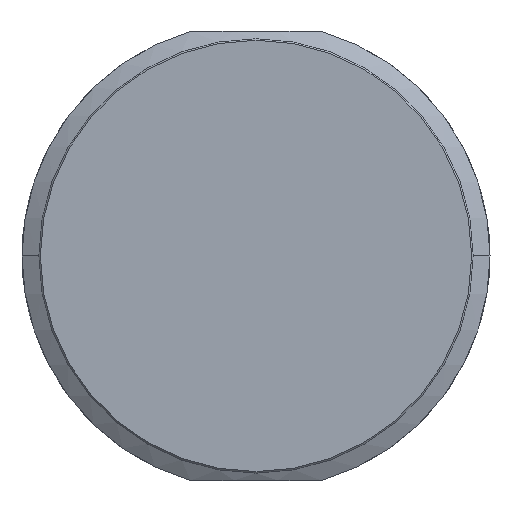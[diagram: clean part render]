
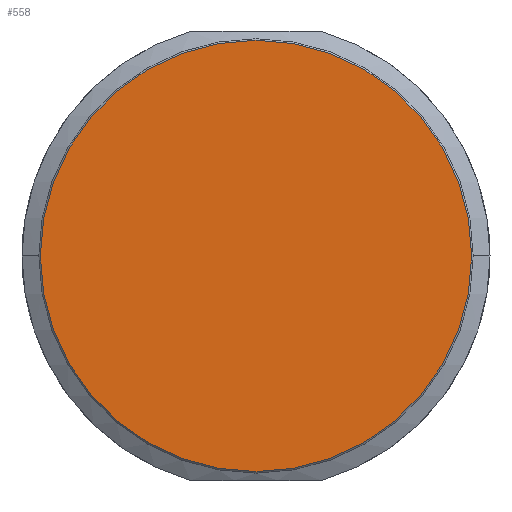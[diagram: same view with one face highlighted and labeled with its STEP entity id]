
A CAD part, top view. The second image highlights one B-rep face of the part: STEP entity #558.
In plain terms, the highlighted planar face has unit normal (0, 0, 1).
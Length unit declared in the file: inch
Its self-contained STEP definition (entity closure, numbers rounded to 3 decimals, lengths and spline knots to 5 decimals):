
#152=CARTESIAN_POINT('',(0.,0.,
0.));
#153=DIRECTION('',(0.,0.,1.));
#154=DIRECTION('',(-1.,0.,0.));
#155=AXIS2_PLACEMENT_3D('',#152,#153,#154);
#157=CARTESIAN_POINT('',(0.,0.,0.));
#158=DIRECTION('',(0.,0.,1.));
#159=DIRECTION('',(1.,0.,0.));
#160=AXIS2_PLACEMENT_3D('',#157,#158,#159);
#304=CARTESIAN_POINT('',(-2.88,0.,0.));
#305=CARTESIAN_POINT('',(2.88,0.,0.));
#306=VERTEX_POINT('',#304);
#307=VERTEX_POINT('',#305);
#548=CARTESIAN_POINT('',(0.,0.,0.));
#549=DIRECTION('',(0.,0.,-1.));
#550=DIRECTION('',(-1.,0.,0.));
#551=AXIS2_PLACEMENT_3D('',#548,#549,#550);
#552=PLANE('',#551);
#554=ORIENTED_EDGE('',*,*,#553,.F.);
#555=ORIENTED_EDGE('',*,*,#538,.F.);
#556=EDGE_LOOP('',(#554,#555));
#557=FACE_OUTER_BOUND('',#556,.F.);
#558=ADVANCED_FACE('',(#557),#552,.F.);
#156=CIRCLE('',#155,2.88);
#161=CIRCLE('',#160,2.88);
#538=EDGE_CURVE('',#307,#306,#161,.T.);
#553=EDGE_CURVE('',#306,#307,#156,.T.);
